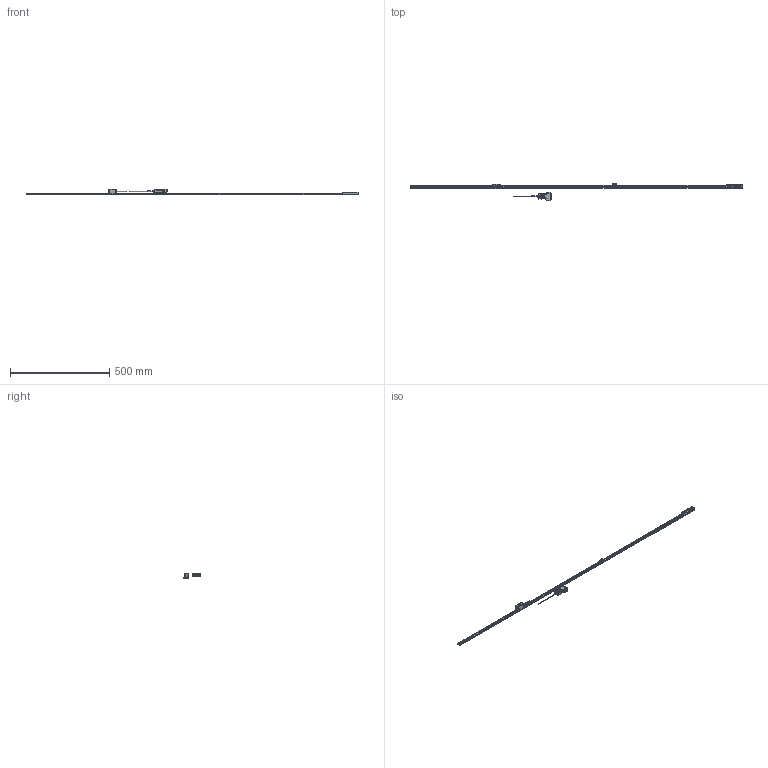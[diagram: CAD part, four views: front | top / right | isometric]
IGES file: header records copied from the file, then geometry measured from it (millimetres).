
Start section: Elysium IGES Interface
Global section: file name: 90H\\Utsu119s\kiyo_cad\data\3D\ABS ST1300\HP掲載用_201803\ST1300-Dタイプ\PKG\ST1300-1500D.igs; native system: Creo Elements/Direct Modeling 18.1B  29-Sep-2012; preprocessor: Creo Element/Direct IGES_3D V2.2; author: Unknown; organization: Unknown; date: 20180301.125303; units: millimetre
Bounding box: 1673 x 88.3 x 30.1 mm (x, y, z)
Volume: 161491.7 mm3; surface area: 109460.3 mm2
Topology: 3 solids, 10 shells, 3815 faces, 10429 edges, 6788 vertices
Faces by surface type: bspline 3815
